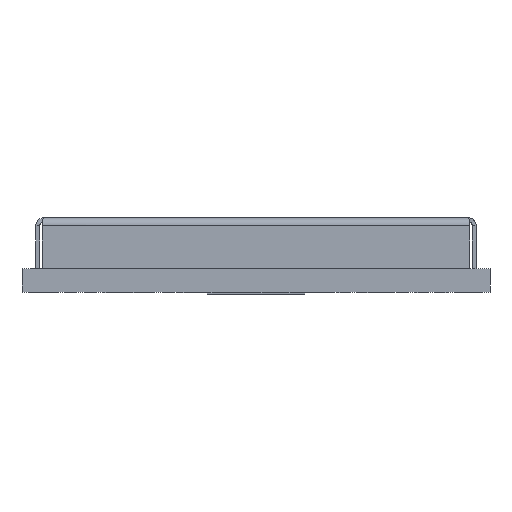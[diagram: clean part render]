
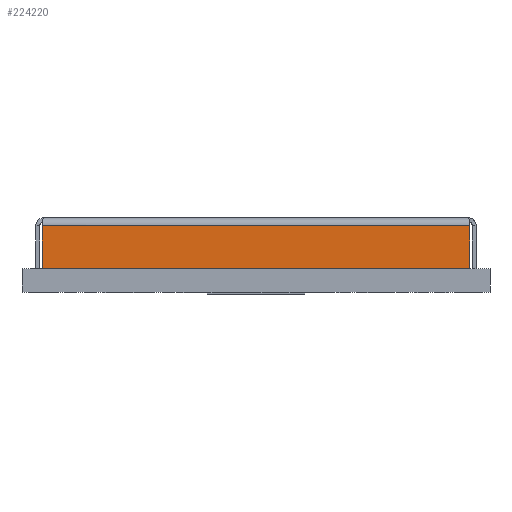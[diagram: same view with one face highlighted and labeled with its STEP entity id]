
A CAD part, front view. The second image highlights one B-rep face of the part: STEP entity #224220.
In plain terms, the highlighted planar face has unit normal (0, -1, 0).
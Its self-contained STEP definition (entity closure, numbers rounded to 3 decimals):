
#2589 = EDGE_CURVE ( 'NONE', #181932, #129751, #178966, .T. ) ;
#17278 = CARTESIAN_POINT ( 'NONE',  ( 0.524, 0.353, 1.1 ) ) ;
#28164 = AXIS2_PLACEMENT_3D ( 'NONE', #82943, #155014, #227079 ) ;
#30530 = CARTESIAN_POINT ( 'NONE',  ( 0.524, 0.353, 0. ) ) ;
#33415 = VECTOR ( 'NONE', #107069, 1000. ) ;
#39757 = EDGE_CURVE ( 'NONE', #107649, #227288, #163528, .T. ) ;
#48544 = ORIENTED_EDGE ( 'NONE', *, *, #115735, .T. ) ;
#57478 = ORIENTED_EDGE ( 'NONE', *, *, #2589, .T. ) ;
#61510 = CARTESIAN_POINT ( 'NONE',  ( 0.524, 0.353, 1.3 ) ) ;
#69324 = CARTESIAN_POINT ( 'NONE',  ( 0.353, 0.353, 0. ) ) ;
#69963 = DIRECTION ( 'NONE',  ( 0., 0., 1. ) ) ;
#71059 = VECTOR ( 'NONE', #99132, 1000. ) ;
#82943 = CARTESIAN_POINT ( 'NONE',  ( 0.353, 0.353, 1.3 ) ) ;
#89216 = DIRECTION ( 'NONE',  ( -1., 0., 0. ) ) ;
#99132 = DIRECTION ( 'NONE',  ( 0., 0., -1. ) ) ;
#103455 = EDGE_LOOP ( 'NONE', ( #123312, #119327, #48544, #57478 ) ) ;
#107069 = DIRECTION ( 'NONE',  ( 1., 0., 0. ) ) ;
#107649 = VERTEX_POINT ( 'NONE', #123294 ) ;
#113348 = LINE ( 'NONE', #61510, #71059 ) ;
#115735 = EDGE_CURVE ( 'NONE', #227288, #181932, #113348, .T. ) ;
#116242 = VECTOR ( 'NONE', #89216, 1000. ) ;
#119327 = ORIENTED_EDGE ( 'NONE', *, *, #39757, .T. ) ;
#123294 = CARTESIAN_POINT ( 'NONE',  ( 11.476, 0.353, 1.1 ) ) ;
#123312 = ORIENTED_EDGE ( 'NONE', *, *, #172365, .T. ) ;
#125483 = CARTESIAN_POINT ( 'NONE',  ( 11.476, 0.353, 0. ) ) ;
#129751 = VERTEX_POINT ( 'NONE', #125483 ) ;
#142465 = CARTESIAN_POINT ( 'NONE',  ( 0.524, 0.353, 1.1 ) ) ;
#151546 = FACE_OUTER_BOUND ( 'NONE', #103455, .T. ) ;
#155014 = DIRECTION ( 'NONE',  ( 0., 1., 0. ) ) ;
#163528 = LINE ( 'NONE', #17278, #116242 ) ;
#172365 = EDGE_CURVE ( 'NONE', #129751, #107649, #199800, .T. ) ;
#178966 = LINE ( 'NONE', #69324, #33415 ) ;
#181932 = VERTEX_POINT ( 'NONE', #30530 ) ;
#199800 = LINE ( 'NONE', #215155, #207540 ) ;
#207540 = VECTOR ( 'NONE', #69963, 1000. ) ;
#215155 = CARTESIAN_POINT ( 'NONE',  ( 11.476, 0.353, 1.3 ) ) ;
#223607 = PLANE ( 'NONE',  #28164 ) ;
#224220 = ADVANCED_FACE ( 'NONE', ( #151546 ), #223607, .F. ) ;
#227079 = DIRECTION ( 'NONE',  ( -1., 0., 0. ) ) ;
#227288 = VERTEX_POINT ( 'NONE', #142465 ) ;
